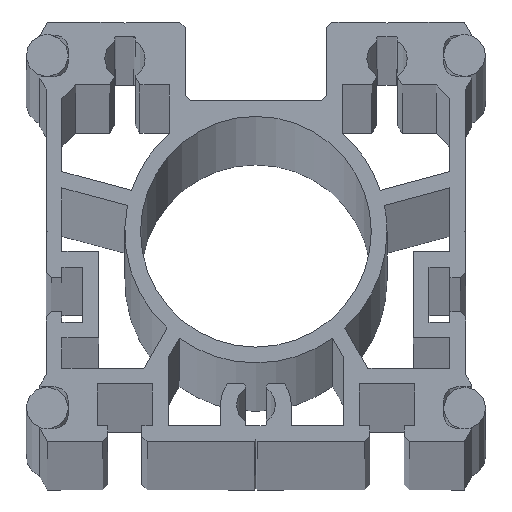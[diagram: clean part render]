
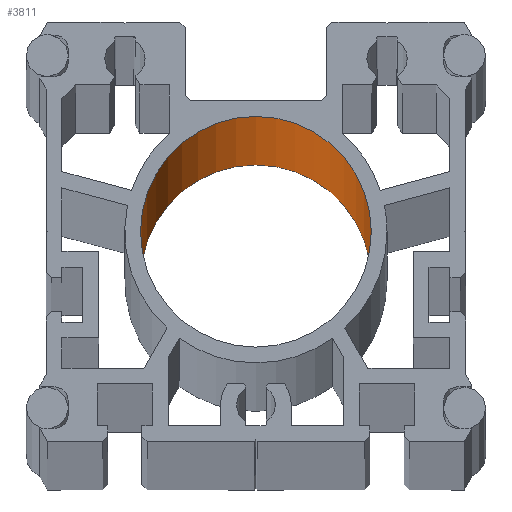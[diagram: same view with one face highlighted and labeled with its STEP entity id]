
A CAD part, top view. The second image highlights one B-rep face of the part: STEP entity #3811.
In plain terms, the highlighted cylindrical face has radius 22 mm (diameter 44 mm), a partial arc.
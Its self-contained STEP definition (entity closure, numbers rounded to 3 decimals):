
#139 = VERTEX_POINT ( 'NONE', #2953 ) ;
#140 = VERTEX_POINT ( 'NONE', #2952 ) ;
#145 = VERTEX_POINT ( 'NONE', #2942 ) ;
#147 = EDGE_CURVE ( 'NONE', #248, #145, #2941, .T. ) ;
#248 = VERTEX_POINT ( 'NONE', #3089 ) ;
#297 = EDGE_CURVE ( 'NONE', #139, #140, #3264, .T. ) ;
#2062 = EDGE_CURVE ( 'NONE', #248, #139, #6615, .T. ) ;
#2938 = DIRECTION ( 'NONE',  ( 0., 0., 1. ) ) ;
#2939 = VECTOR ( 'NONE', #2938, 1000. ) ;
#2940 = CARTESIAN_POINT ( 'NONE',  ( 22., 40., -2649. ) ) ;
#2941 = LINE ( 'NONE', #2940, #2939 ) ;
#2942 = CARTESIAN_POINT ( 'NONE',  ( 22., 40., 2649. ) ) ;
#2952 = CARTESIAN_POINT ( 'NONE',  ( -22., 40., 2649. ) ) ;
#2953 = CARTESIAN_POINT ( 'NONE',  ( -22., 40., -2649. ) ) ;
#3089 = CARTESIAN_POINT ( 'NONE',  ( 22., 40., -2649. ) ) ;
#3261 = DIRECTION ( 'NONE',  ( 0., 0., 1. ) ) ;
#3262 = VECTOR ( 'NONE', #3261, 1000. ) ;
#3263 = CARTESIAN_POINT ( 'NONE',  ( -22., 40., -2649. ) ) ;
#3264 = LINE ( 'NONE', #3263, #3262 ) ;
#3802 = ORIENTED_EDGE ( 'NONE', *, *, #3965, .T. ) ;
#3805 = ORIENTED_EDGE ( 'NONE', *, *, #2062, .F. ) ;
#3806 = ORIENTED_EDGE ( 'NONE', *, *, #147, .T. ) ;
#3808 = EDGE_LOOP ( 'NONE', ( #3818, #3805, #3806, #3802 ) ) ;
#3811 = ADVANCED_FACE ( 'NONE', ( #7752 ), #7751, .F. ) ;
#3818 = ORIENTED_EDGE ( 'NONE', *, *, #297, .F. ) ;
#3965 = EDGE_CURVE ( 'NONE', #145, #140, #8018, .T. ) ;
#6611 = DIRECTION ( 'NONE',  ( 1., 0., 0. ) ) ;
#6612 = DIRECTION ( 'NONE',  ( 0., 0., 1. ) ) ;
#6613 = CARTESIAN_POINT ( 'NONE',  ( 0., 40., -2649. ) ) ;
#6614 = AXIS2_PLACEMENT_3D ( 'NONE', #6613, #6612, #6611 ) ;
#6615 = CIRCLE ( 'NONE', #6614, 22. ) ;
#7713 = DIRECTION ( 'NONE',  ( 1., 0., 0. ) ) ;
#7714 = DIRECTION ( 'NONE',  ( 0., 0., 1. ) ) ;
#7748 = CARTESIAN_POINT ( 'NONE',  ( 0., 40., -2649. ) ) ;
#7749 = AXIS2_PLACEMENT_3D ( 'NONE', #7748, #7714, #7713 ) ;
#7751 = CYLINDRICAL_SURFACE ( 'NONE', #7749, 22. ) ;
#7752 = FACE_OUTER_BOUND ( 'NONE', #3808, .T. ) ;
#8014 = DIRECTION ( 'NONE',  ( 1., 0., 0. ) ) ;
#8015 = DIRECTION ( 'NONE',  ( 0., 0., 1. ) ) ;
#8016 = CARTESIAN_POINT ( 'NONE',  ( 0., 40., 2649. ) ) ;
#8017 = AXIS2_PLACEMENT_3D ( 'NONE', #8016, #8015, #8014 ) ;
#8018 = CIRCLE ( 'NONE', #8017, 22. ) ;
